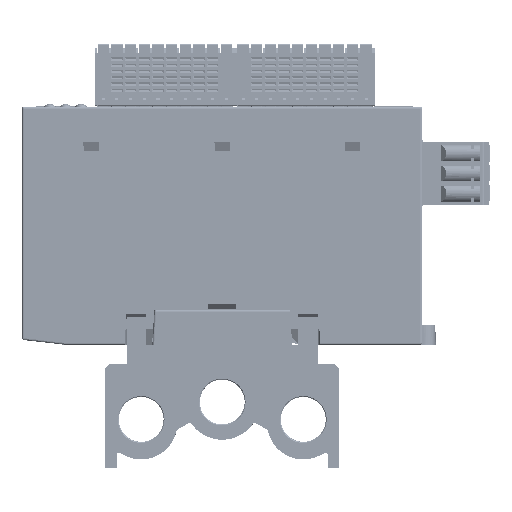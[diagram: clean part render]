
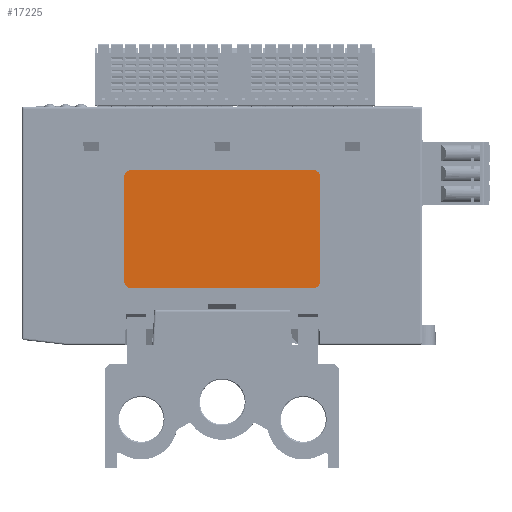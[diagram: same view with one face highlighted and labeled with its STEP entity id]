
A CAD part, front view. The second image highlights one B-rep face of the part: STEP entity #17225.
In plain terms, the highlighted planar face has unit normal (0, -1, 0).
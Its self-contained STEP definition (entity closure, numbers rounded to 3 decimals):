
#7643=FACE_OUTER_BOUND('',#72747,.T.);
#17225=ADVANCED_FACE('',(#7643),#26945,.F.);
#26945=PLANE('',#184210);
#34705=LINE('',#256862,#52904);
#34709=LINE('',#256870,#52908);
#34711=LINE('',#256874,#52910);
#34714=LINE('',#256882,#52913);
#52904=VECTOR('',#202426,1.);
#52908=VECTOR('',#202432,1.);
#52910=VECTOR('',#202436,1.);
#52913=VECTOR('',#202443,1.);
#72747=EDGE_LOOP('',(#86758,#86759,#86760,#86761,#86762,#86763,#86764,#86765));
#86758=ORIENTED_EDGE('',*,*,#154635,.F.);
#86759=ORIENTED_EDGE('',*,*,#154640,.T.);
#86760=ORIENTED_EDGE('',*,*,#154641,.F.);
#86761=ORIENTED_EDGE('',*,*,#154642,.T.);
#86762=ORIENTED_EDGE('',*,*,#154637,.F.);
#86763=ORIENTED_EDGE('',*,*,#154643,.T.);
#86764=ORIENTED_EDGE('',*,*,#154631,.F.);
#86765=ORIENTED_EDGE('',*,*,#154644,.T.);
#137068=VERTEX_POINT('',#256863);
#137069=VERTEX_POINT('',#256864);
#137070=VERTEX_POINT('',#256869);
#137071=VERTEX_POINT('',#256871);
#137072=VERTEX_POINT('',#256875);
#137073=VERTEX_POINT('',#256876);
#137074=VERTEX_POINT('',#256881);
#137075=VERTEX_POINT('',#256883);
#154631=EDGE_CURVE('',#137068,#137069,#34705,.T.);
#154635=EDGE_CURVE('',#137070,#137071,#34709,.T.);
#154637=EDGE_CURVE('',#137072,#137073,#34711,.T.);
#154640=EDGE_CURVE('',#137070,#137074,#178609,.T.);
#154641=EDGE_CURVE('',#137075,#137074,#34714,.T.);
#154642=EDGE_CURVE('',#137075,#137073,#178610,.T.);
#154643=EDGE_CURVE('',#137072,#137069,#178611,.T.);
#154644=EDGE_CURVE('',#137068,#137071,#178612,.T.);
#178609=CIRCLE('',#184206,1.8);
#178610=CIRCLE('',#184207,1.8);
#178611=CIRCLE('',#184208,1.8);
#178612=CIRCLE('',#184209,1.8);
#184206=AXIS2_PLACEMENT_3D('',#256880,#202441,#202442);
#184207=AXIS2_PLACEMENT_3D('',#256884,#202444,#202445);
#184208=AXIS2_PLACEMENT_3D('',#256885,#202446,#202447);
#184209=AXIS2_PLACEMENT_3D('',#256886,#202448,#202449);
#184210=AXIS2_PLACEMENT_3D('',#256887,#202450,#202451);
#202426=DIRECTION('',(0.,0.,-1.));
#202432=DIRECTION('',(1.,0.,0.));
#202436=DIRECTION('',(-1.,0.,0.));
#202441=DIRECTION('',(0.,-1.,0.));
#202442=DIRECTION('',(0.,0.,1.));
#202443=DIRECTION('',(0.,0.,1.));
#202444=DIRECTION('',(0.,-1.,0.));
#202445=DIRECTION('',(0.,0.,-1.));
#202446=DIRECTION('',(0.,-1.,0.));
#202447=DIRECTION('',(0.,0.,-1.));
#202448=DIRECTION('',(0.,-1.,0.));
#202449=DIRECTION('',(0.,0.,-1.));
#202450=DIRECTION('',(0.,1.,0.));
#202451=DIRECTION('',(0.,0.,-1.));
#256862=CARTESIAN_POINT('',(525.15,1197.86,34.634));
#256863=CARTESIAN_POINT('',(525.15,1197.86,47.934));
#256864=CARTESIAN_POINT('',(525.15,1197.86,21.334));
#256869=CARTESIAN_POINT('',(476.75,1197.86,49.734));
#256870=CARTESIAN_POINT('',(500.05,1197.86,49.734));
#256871=CARTESIAN_POINT('',(523.35,1197.86,49.734));
#256874=CARTESIAN_POINT('',(475.05,1197.86,19.534));
#256875=CARTESIAN_POINT('',(523.35,1197.86,19.534));
#256876=CARTESIAN_POINT('',(476.75,1197.86,19.534));
#256880=CARTESIAN_POINT('',(476.75,1197.86,47.934));
#256881=CARTESIAN_POINT('',(474.95,1197.86,47.934));
#256882=CARTESIAN_POINT('',(474.95,1197.86,34.634));
#256883=CARTESIAN_POINT('',(474.95,1197.86,21.334));
#256884=CARTESIAN_POINT('',(476.75,1197.86,21.334));
#256885=CARTESIAN_POINT('',(523.35,1197.86,21.334));
#256886=CARTESIAN_POINT('',(523.35,1197.86,47.934));
#256887=CARTESIAN_POINT('',(500.041,1197.86,23.341));
